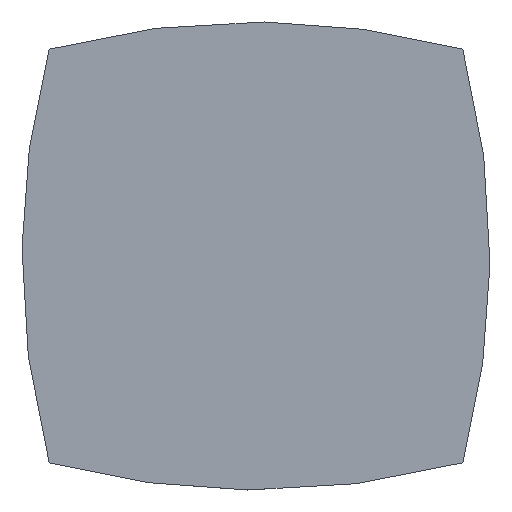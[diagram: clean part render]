
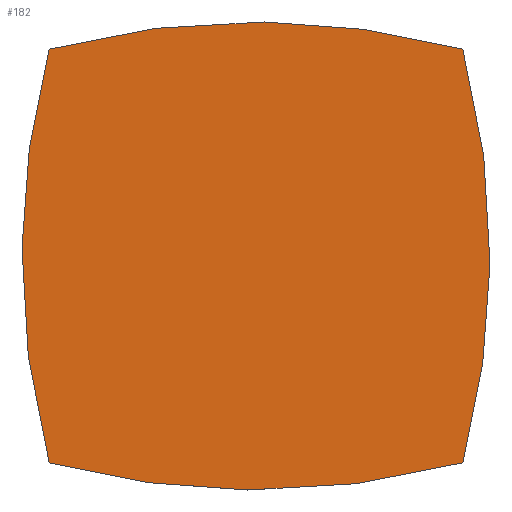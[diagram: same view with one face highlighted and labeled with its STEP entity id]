
A CAD part, top view. The second image highlights one B-rep face of the part: STEP entity #182.
In plain terms, the highlighted planar face has unit normal (0, 0, 1).
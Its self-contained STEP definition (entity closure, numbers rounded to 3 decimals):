
#15=(
BOUNDED_CURVE()
B_SPLINE_CURVE(2,(#2421,#2422,#2423),.UNSPECIFIED.,.F.,.F.)
B_SPLINE_CURVE_WITH_KNOTS((3,3),(0.,768.742),.UNSPECIFIED.)
CURVE()
GEOMETRIC_REPRESENTATION_ITEM()
RATIONAL_B_SPLINE_CURVE((1.,0.966,1.))
REPRESENTATION_ITEM('')
);
#18=(
BOUNDED_CURVE()
B_SPLINE_CURVE(2,(#2429,#2430,#2431),.UNSPECIFIED.,.F.,.F.)
B_SPLINE_CURVE_WITH_KNOTS((3,3),(2306.225,3074.967),
 .UNSPECIFIED.)
CURVE()
GEOMETRIC_REPRESENTATION_ITEM()
RATIONAL_B_SPLINE_CURVE((1.,0.966,1.))
REPRESENTATION_ITEM('')
);
#19=(
BOUNDED_CURVE()
B_SPLINE_CURVE(2,(#2432,#2433,#2434),.UNSPECIFIED.,.F.,.F.)
B_SPLINE_CURVE_WITH_KNOTS((3,3),(1537.484,2306.225),
 .UNSPECIFIED.)
CURVE()
GEOMETRIC_REPRESENTATION_ITEM()
RATIONAL_B_SPLINE_CURVE((1.,0.966,1.))
REPRESENTATION_ITEM('')
);
#20=(
BOUNDED_CURVE()
B_SPLINE_CURVE(2,(#2435,#2436,#2437),.UNSPECIFIED.,.F.,.F.)
B_SPLINE_CURVE_WITH_KNOTS((3,3),(768.742,1537.484),
 .UNSPECIFIED.)
CURVE()
GEOMETRIC_REPRESENTATION_ITEM()
RATIONAL_B_SPLINE_CURVE((1.,0.966,1.))
REPRESENTATION_ITEM('')
);
#182=ADVANCED_FACE('',(#274),#1261,.T.);
#274=FACE_OUTER_BOUND('',#366,.T.);
#366=EDGE_LOOP('',(#707,#708,#709,#710));
#707=ORIENTED_EDGE('',*,*,#911,.T.);
#708=ORIENTED_EDGE('',*,*,#908,.T.);
#709=ORIENTED_EDGE('',*,*,#913,.T.);
#710=ORIENTED_EDGE('',*,*,#912,.T.);
#908=EDGE_CURVE('',#1205,#1204,#15,.T.);
#911=EDGE_CURVE('',#1202,#1205,#18,.T.);
#912=EDGE_CURVE('',#1203,#1202,#19,.T.);
#913=EDGE_CURVE('',#1204,#1203,#20,.T.);
#1202=VERTEX_POINT('',#2411);
#1203=VERTEX_POINT('',#2412);
#1204=VERTEX_POINT('',#2413);
#1205=VERTEX_POINT('',#2414);
#1261=PLANE('',#1401);
#1401=AXIS2_PLACEMENT_3D('',#2358,#1457,$);
#1457=DIRECTION('',(0.,0.,1.));
#2358=CARTESIAN_POINT('',(-491.397,-491.397,1099.));
#2411=CARTESIAN_POINT('',(380.,380.,1099.));
#2412=CARTESIAN_POINT('',(380.,-380.,1099.));
#2413=CARTESIAN_POINT('',(-380.,-380.,1099.));
#2414=CARTESIAN_POINT('',(-380.,380.,1099.));
#2421=CARTESIAN_POINT('',(-380.,380.,1099.));
#2422=CARTESIAN_POINT('',(-481.762,0.,1099.));
#2423=CARTESIAN_POINT('',(-380.,-380.,1099.));
#2429=CARTESIAN_POINT('',(380.,380.,1099.));
#2430=CARTESIAN_POINT('',(0.,481.762,1099.));
#2431=CARTESIAN_POINT('',(-380.,380.,1099.));
#2432=CARTESIAN_POINT('',(380.,-380.,1099.));
#2433=CARTESIAN_POINT('',(481.762,0.,1099.));
#2434=CARTESIAN_POINT('',(380.,380.,1099.));
#2435=CARTESIAN_POINT('',(-380.,-380.,1099.));
#2436=CARTESIAN_POINT('',(0.,-481.762,1099.));
#2437=CARTESIAN_POINT('',(380.,-380.,1099.));
